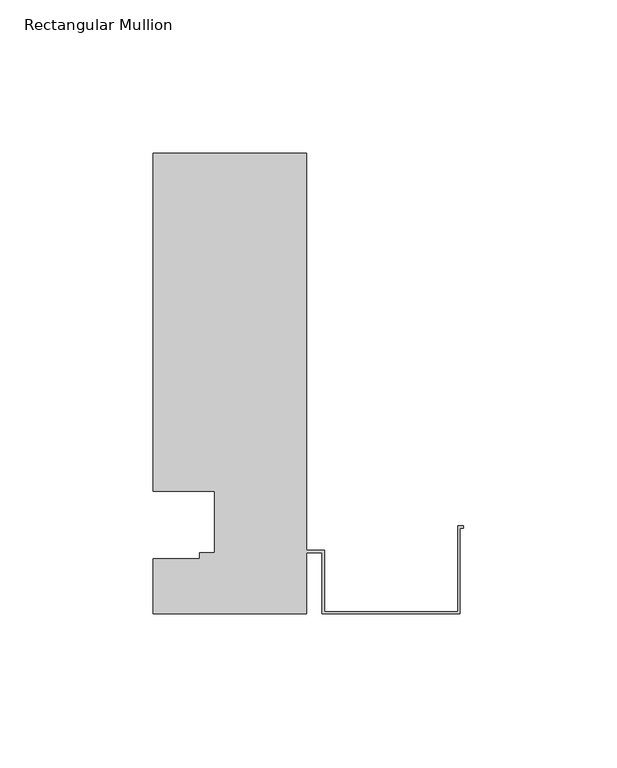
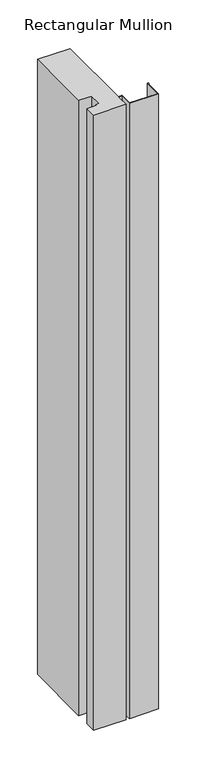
"""IFC4 building model written with IfcOpenShell, lengths in millimetres: member geometry, Rectangular Mullion : TR_CW_ALU_border_TONGUE."""

from ifc_helpers import new_model, si_unit, frame, origin, place, context, project, spatial, polyline, outline, extrude, source, transform, mapped, element, save


def rectangular_mullion_80fd9f3b(model_context):
    return source(origin(), model_context, "Body", "SweptSolid", [
        extrude(outline(polyline([(-101.0, 0.0), (-101.0, 18.0204111), (-86.0, 18.0204111), (-86.0, 20.0), (-81.0, 20.0), (-81.0, 40.0), (-101.0, 40.0), (-101.0, 150.0), (-51.0, 150.0), (-51.0, 20.8), (-45.2, 20.8), (-45.2, 0.8), (-1.8, 0.8), (-1.8, 28.8), (0.0, 28.8), (0.0, 28.0), (-1.0, 28.0), (-1.0, 0.0), (-46.0, 0.0), (-46.0, 20.0), (-51.0, 20.0), (-51.0, 0.0), (-101.0, 0.0)])), frame((0.0, 0.0, -1000.0), z_axis=(0.0, 0.0, 1.0), x_axis=(1.0, 0.0, 0.0)), (0.0, 0.0, 1.0), 1000.0),
    ])


if __name__ == "__main__":
    model = new_model("IFC4")
    model_context = context("Model", 3, world=origin())
    ifc_project = project(units=[si_unit("LENGTHUNIT", "METRE", prefix="MILLI")], contexts=[model_context])
    site = spatial("IfcSite", under=ifc_project)
    building = spatial("IfcBuilding", under=site)
    placement = place(None, origin())
    rectangular_mullion_shape = rectangular_mullion_80fd9f3b(model_context)
    element("IfcMember", 1, ObjectType="Rectangular Mullion : TR_CW_ALU_border_TONGUE", at=placement, inside=building, context=model_context, shape_type="MappedRepresentation", body=[
        mapped(rectangular_mullion_shape, transform((0.0, 0.0, 0.0), x_axis=(1.0, 0.0, 0.0), y_axis=(0.0, 1.0, 0.0), z_axis=(0.0, 0.0, 1.0))),
    ])
    save(model, "model.ifc")
